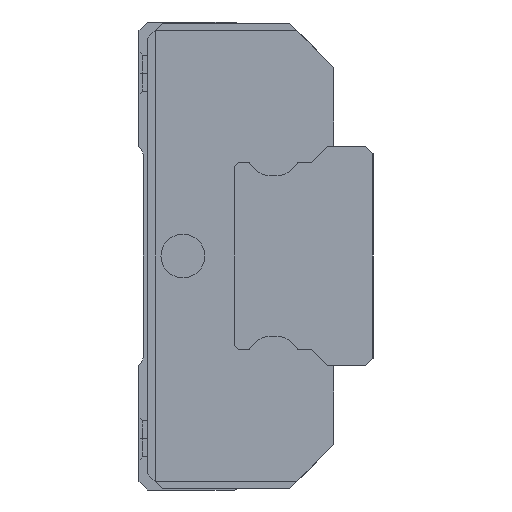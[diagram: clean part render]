
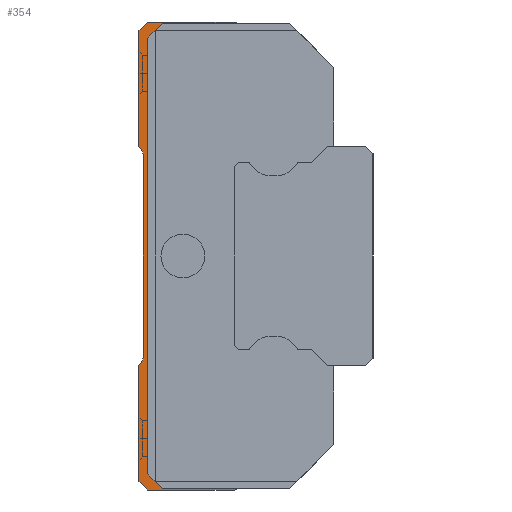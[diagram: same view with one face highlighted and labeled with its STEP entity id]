
A CAD part, left-side view. The second image highlights one B-rep face of the part: STEP entity #354.
In plain terms, the highlighted planar face has unit normal (-1, 0, 0).
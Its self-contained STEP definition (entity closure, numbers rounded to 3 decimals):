
#354 = ADVANCED_FACE( '', ( #912 ), #913, .F. );
#912 = FACE_OUTER_BOUND( '', #1491, .T. );
#913 = PLANE( '', #1492 );
#1491 = EDGE_LOOP( '', ( #3351, #3352, #3353, #3354, #3355, #3356, #3357, #3358, #3359, #3360, #3361, #3362, #3363, #3364, #3365, #3366, #3367, #3368 ) );
#1492 = AXIS2_PLACEMENT_3D( '', #3369, #3370, #3371 );
#3351 = ORIENTED_EDGE( '', *, *, #3971, .T. );
#3352 = ORIENTED_EDGE( '', *, *, #4005, .T. );
#3353 = ORIENTED_EDGE( '', *, *, #4001, .T. );
#3354 = ORIENTED_EDGE( '', *, *, #3936, .T. );
#3355 = ORIENTED_EDGE( '', *, *, #3947, .T. );
#3356 = ORIENTED_EDGE( '', *, *, #4092, .F. );
#3357 = ORIENTED_EDGE( '', *, *, #4093, .F. );
#3358 = ORIENTED_EDGE( '', *, *, #4094, .F. );
#3359 = ORIENTED_EDGE( '', *, *, #4095, .F. );
#3360 = ORIENTED_EDGE( '', *, *, #4096, .F. );
#3361 = ORIENTED_EDGE( '', *, *, #4097, .F. );
#3362 = ORIENTED_EDGE( '', *, *, #4098, .F. );
#3363 = ORIENTED_EDGE( '', *, *, #4099, .F. );
#3364 = ORIENTED_EDGE( '', *, *, #4100, .F. );
#3365 = ORIENTED_EDGE( '', *, *, #4101, .F. );
#3366 = ORIENTED_EDGE( '', *, *, #4102, .F. );
#3367 = ORIENTED_EDGE( '', *, *, #4103, .F. );
#3368 = ORIENTED_EDGE( '', *, *, #4104, .F. );
#3369 = CARTESIAN_POINT( '', ( 467.15, 2.7, 0. ) );
#3370 = DIRECTION( '', ( 1., 0., 0. ) );
#3371 = DIRECTION( '', ( 0., 0., -1. ) );
#3936 = EDGE_CURVE( '', #4841, #4839, #4842, .T. );
#3947 = EDGE_CURVE( '', #4839, #4859, #4861, .T. );
#3971 = EDGE_CURVE( '', #4903, #4901, #4904, .T. );
#4001 = EDGE_CURVE( '', #4952, #4841, #4953, .T. );
#4005 = EDGE_CURVE( '', #4901, #4952, #4958, .T. );
#4092 = EDGE_CURVE( '', #5090, #4859, #5091, .T. );
#4093 = EDGE_CURVE( '', #5092, #5090, #5093, .T. );
#4094 = EDGE_CURVE( '', #5094, #5092, #5095, .T. );
#4095 = EDGE_CURVE( '', #5096, #5094, #5097, .T. );
#4096 = EDGE_CURVE( '', #5098, #5096, #5099, .T. );
#4097 = EDGE_CURVE( '', #5100, #5098, #5101, .T. );
#4098 = EDGE_CURVE( '', #5102, #5100, #5103, .T. );
#4099 = EDGE_CURVE( '', #5104, #5102, #5105, .T. );
#4100 = EDGE_CURVE( '', #5106, #5104, #5107, .T. );
#4101 = EDGE_CURVE( '', #5108, #5106, #5109, .T. );
#4102 = EDGE_CURVE( '', #5110, #5108, #5111, .T. );
#4103 = EDGE_CURVE( '', #5112, #5110, #5113, .T. );
#4104 = EDGE_CURVE( '', #4903, #5112, #5114, .T. );
#4839 = VERTEX_POINT( '', #6046 );
#4841 = VERTEX_POINT( '', #6049 );
#4842 = LINE( '', #6050, #6051 );
#4859 = VERTEX_POINT( '', #6077 );
#4861 = LINE( '', #6080, #6081 );
#4901 = VERTEX_POINT( '', #6143 );
#4903 = VERTEX_POINT( '', #6146 );
#4904 = LINE( '', #6147, #6148 );
#4952 = VERTEX_POINT( '', #6225 );
#4953 = LINE( '', #6226, #6227 );
#4958 = LINE( '', #6235, #6236 );
#5090 = VERTEX_POINT( '', #6426 );
#5091 = LINE( '', #6427, #6428 );
#5092 = VERTEX_POINT( '', #6429 );
#5093 = LINE( '', #6430, #6431 );
#5094 = VERTEX_POINT( '', #6432 );
#5095 = LINE( '', #6433, #6434 );
#5096 = VERTEX_POINT( '', #6435 );
#5097 = LINE( '', #6436, #6437 );
#5098 = VERTEX_POINT( '', #6438 );
#5099 = LINE( '', #6439, #6440 );
#5100 = VERTEX_POINT( '', #6441 );
#5101 = CIRCLE( '', #6442, 0.5 );
#5102 = VERTEX_POINT( '', #6443 );
#5103 = LINE( '', #6444, #6445 );
#5104 = VERTEX_POINT( '', #6446 );
#5105 = CIRCLE( '', #6447, 0.5 );
#5106 = VERTEX_POINT( '', #6448 );
#5107 = LINE( '', #6449, #6450 );
#5108 = VERTEX_POINT( '', #6451 );
#5109 = LINE( '', #6452, #6453 );
#5110 = VERTEX_POINT( '', #6454 );
#5111 = LINE( '', #6455, #6456 );
#5112 = VERTEX_POINT( '', #6457 );
#5113 = LINE( '', #6458, #6459 );
#5114 = LINE( '', #6460, #6461 );
#6046 = CARTESIAN_POINT( '', ( 467.15, 14.4, 15.9 ) );
#6049 = CARTESIAN_POINT( '', ( 467.15, 15.4, 14.9 ) );
#6050 = CARTESIAN_POINT( '', ( 467.15, 15.95, 14.35 ) );
#6051 = VECTOR( '', #7420, 1. );
#6077 = CARTESIAN_POINT( '', ( 467.15, 9.28, 15.9 ) );
#6080 = CARTESIAN_POINT( '', ( 467.15, 8.55, 15.9 ) );
#6081 = VECTOR( '', #7431, 1. );
#6143 = CARTESIAN_POINT( '', ( 467.15, 14.4, -15.9 ) );
#6146 = CARTESIAN_POINT( '', ( 467.15, 9.28, -15.9 ) );
#6147 = CARTESIAN_POINT( '', ( 467.15, 4.2, -15.9 ) );
#6148 = VECTOR( '', #7455, 1. );
#6225 = CARTESIAN_POINT( '', ( 467.15, 15.4, -14.9 ) );
#6226 = CARTESIAN_POINT( '', ( 467.15, 15.4, -7.45 ) );
#6227 = VECTOR( '', #7485, 1. );
#6235 = CARTESIAN_POINT( '', ( 467.15, 15.45, -14.85 ) );
#6236 = VECTOR( '', #7489, 1. );
#6426 = CARTESIAN_POINT( '', ( 467.15, 9.5, 16. ) );
#6427 = CARTESIAN_POINT( '', ( 467.15, 9.5, 16. ) );
#6428 = VECTOR( '', #7632, 1. );
#6429 = CARTESIAN_POINT( '', ( 467.15, 15.4, 16. ) );
#6430 = CARTESIAN_POINT( '', ( 467.15, 15.4, 16. ) );
#6431 = VECTOR( '', #7633, 1. );
#6432 = CARTESIAN_POINT( '', ( 467.15, 16., 15.4 ) );
#6433 = CARTESIAN_POINT( '', ( 467.15, 16., 15.4 ) );
#6434 = VECTOR( '', #7634, 1. );
#6435 = CARTESIAN_POINT( '', ( 467.15, 16., 7.5 ) );
#6436 = CARTESIAN_POINT( '', ( 467.15, 16., 7.5 ) );
#6437 = VECTOR( '', #7635, 1. );
#6438 = CARTESIAN_POINT( '', ( 467.15, 15.771, 7.119 ) );
#6439 = CARTESIAN_POINT( '', ( 467.15, 15.771, 7.119 ) );
#6440 = VECTOR( '', #7636, 1. );
#6441 = CARTESIAN_POINT( '', ( 467.15, 15.7, 6.862 ) );
#6442 = AXIS2_PLACEMENT_3D( '', #7637, #7638, #7639 );
#6443 = CARTESIAN_POINT( '', ( 467.15, 15.7, -6.862 ) );
#6444 = CARTESIAN_POINT( '', ( 467.15, 15.7, -6.862 ) );
#6445 = VECTOR( '', #7640, 1. );
#6446 = CARTESIAN_POINT( '', ( 467.15, 15.771, -7.119 ) );
#6447 = AXIS2_PLACEMENT_3D( '', #7641, #7642, #7643 );
#6448 = CARTESIAN_POINT( '', ( 467.15, 16., -7.5 ) );
#6449 = CARTESIAN_POINT( '', ( 467.15, 16., -7.5 ) );
#6450 = VECTOR( '', #7644, 1. );
#6451 = CARTESIAN_POINT( '', ( 467.15, 16., -15.4 ) );
#6452 = CARTESIAN_POINT( '', ( 467.15, 16., -15.4 ) );
#6453 = VECTOR( '', #7645, 1. );
#6454 = CARTESIAN_POINT( '', ( 467.15, 15.4, -16. ) );
#6455 = CARTESIAN_POINT( '', ( 467.15, 15.4, -16. ) );
#6456 = VECTOR( '', #7646, 1. );
#6457 = CARTESIAN_POINT( '', ( 467.15, 9.5, -16. ) );
#6458 = CARTESIAN_POINT( '', ( 467.15, 9.5, -16. ) );
#6459 = VECTOR( '', #7647, 1. );
#6460 = CARTESIAN_POINT( '', ( 467.15, 9.28, -15.9 ) );
#6461 = VECTOR( '', #7648, 1. );
#7420 = DIRECTION( '', ( 0., -0.707, 0.707 ) );
#7431 = DIRECTION( '', ( 0., -1., 0. ) );
#7455 = DIRECTION( '', ( 0., 1., 0. ) );
#7485 = DIRECTION( '', ( 0., 0., 1. ) );
#7489 = DIRECTION( '', ( 0., 0.707, 0.707 ) );
#7632 = DIRECTION( '', ( 0., -0.91, -0.414 ) );
#7633 = DIRECTION( '', ( 0., -1., 0. ) );
#7634 = DIRECTION( '', ( 0., -0.707, 0.707 ) );
#7635 = DIRECTION( '', ( 0., 0., 1. ) );
#7636 = DIRECTION( '', ( 0., 0.514, 0.857 ) );
#7637 = CARTESIAN_POINT( '', ( 467.15, 16.2, 6.862 ) );
#7638 = DIRECTION( '', ( -1., 0., 0. ) );
#7639 = DIRECTION( '', ( 0., -1., 0. ) );
#7640 = DIRECTION( '', ( 0., 0., 1. ) );
#7641 = CARTESIAN_POINT( '', ( 467.15, 16.2, -6.862 ) );
#7642 = DIRECTION( '', ( -1., 0., 0. ) );
#7643 = DIRECTION( '', ( 0., -0.857, -0.514 ) );
#7644 = DIRECTION( '', ( 0., -0.514, 0.857 ) );
#7645 = DIRECTION( '', ( 0., 0., 1. ) );
#7646 = DIRECTION( '', ( 0., 0.707, 0.707 ) );
#7647 = DIRECTION( '', ( 0., 1., 0. ) );
#7648 = DIRECTION( '', ( 0., 0.91, -0.414 ) );
